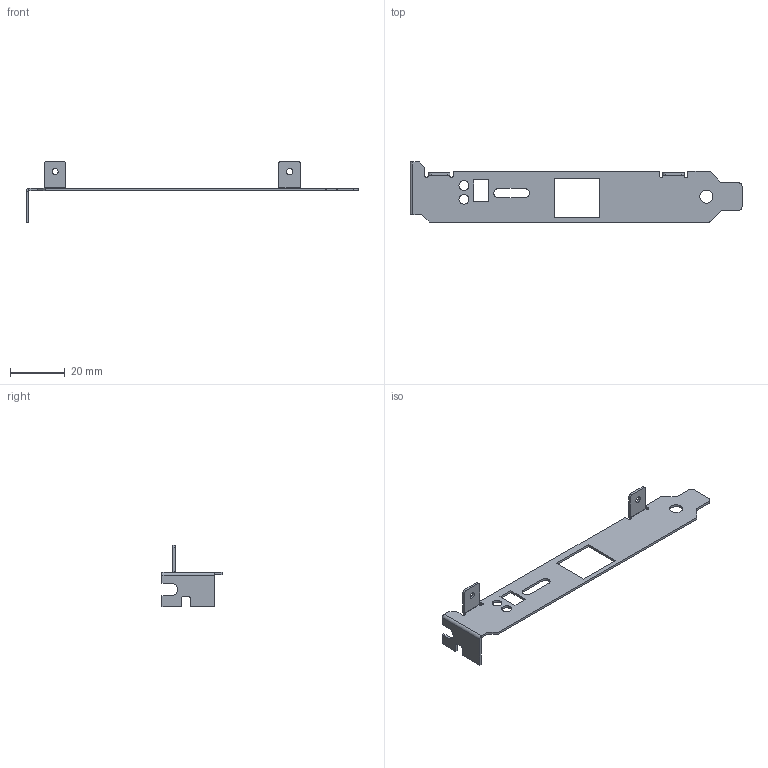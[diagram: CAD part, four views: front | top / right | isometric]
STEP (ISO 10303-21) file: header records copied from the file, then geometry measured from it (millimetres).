
FILE_DESCRIPTION (( 'STEP AP214' ), '1' );
FILE_NAME ('Aluminuim L-shape.STEP', '2017-11-05T08:22:08', ( '' ), ( '' ), 'SwSTEP 2.0', 'SolidWorks 2016', '' );
FILE_SCHEMA (( 'AUTOMOTIVE_DESIGN' ));
Length unit declared in the file: millimetre
Products named in the file (1): Aluminuim L-shape
Bounding box: 120.83 x 21.85 x 22.45 mm (x, y, z)
Volume: 1786.5 mm3; surface area: 4658.7 mm2
Topology: 1 solids, 1 shells, 96 faces, 258 edges, 164 vertices
Faces by surface type: plane 60, cylinder 36
Entity records: 3048 total; most frequent: DIRECTION 524, CARTESIAN_POINT 519, ORIENTED_EDGE 516, EDGE_CURVE 258, VECTOR 186, LINE 186, AXIS2_PLACEMENT_3D 169, VERTEX_POINT 164
